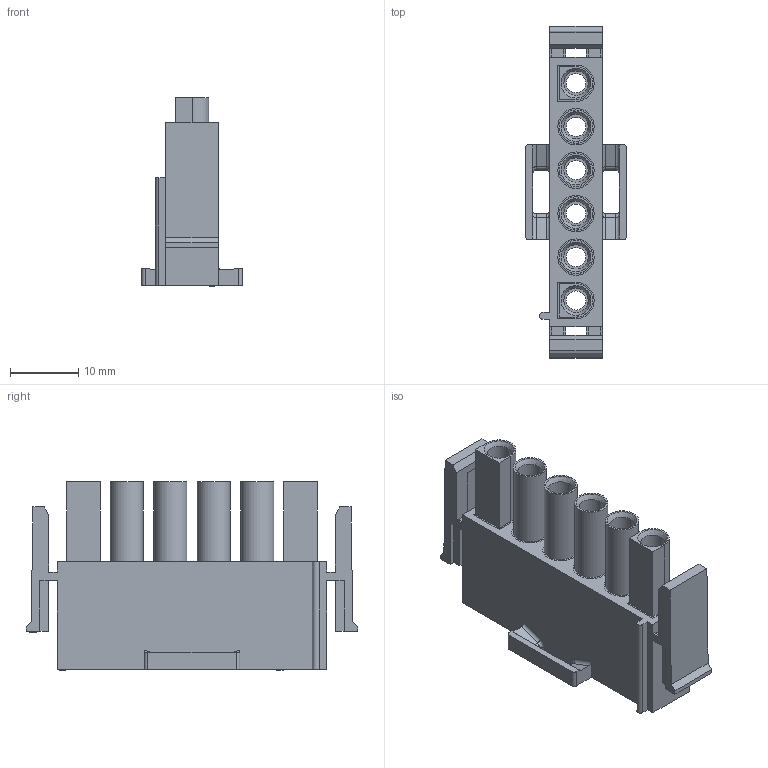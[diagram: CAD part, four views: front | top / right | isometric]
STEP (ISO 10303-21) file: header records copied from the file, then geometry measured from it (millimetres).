
FILE_DESCRIPTION (( 'STEP AP214' ), '1' );
FILE_NAME ('22498r1.STEP', '2011-07-06T16:18:00', ( 'Vicor User' ), ( 'Microsoft' ), 'SwSTEP 2.0', 'SolidWorks 2010', '' );
FILE_SCHEMA (( 'AUTOMOTIVE_DESIGN' ));
Length unit declared in the file: inch
Products named in the file (1): 22498r1
Bounding box: 14.73 x 48.51 x 27.56 mm (x, y, z)
Volume: 4038.7 mm3; surface area: 7225.3 mm2
Topology: 1 solids, 1 shells, 326 faces, 882 edges, 578 vertices
Faces by surface type: plane 242, cylinder 56, cone 18, bspline 10
Full cylindrical faces by diameter (mm): 2.807 x6, 3.556 x6, 4.572 x6, 4.864 x4, 5.588 x6
Entity records: 10033 total; most frequent: CARTESIAN_POINT 2032, ORIENTED_EDGE 1644, DIRECTION 1545, EDGE_CURVE 822, LINE 679, VECTOR 679, VERTEX_POINT 562, AXIS2_PLACEMENT_3D 433
